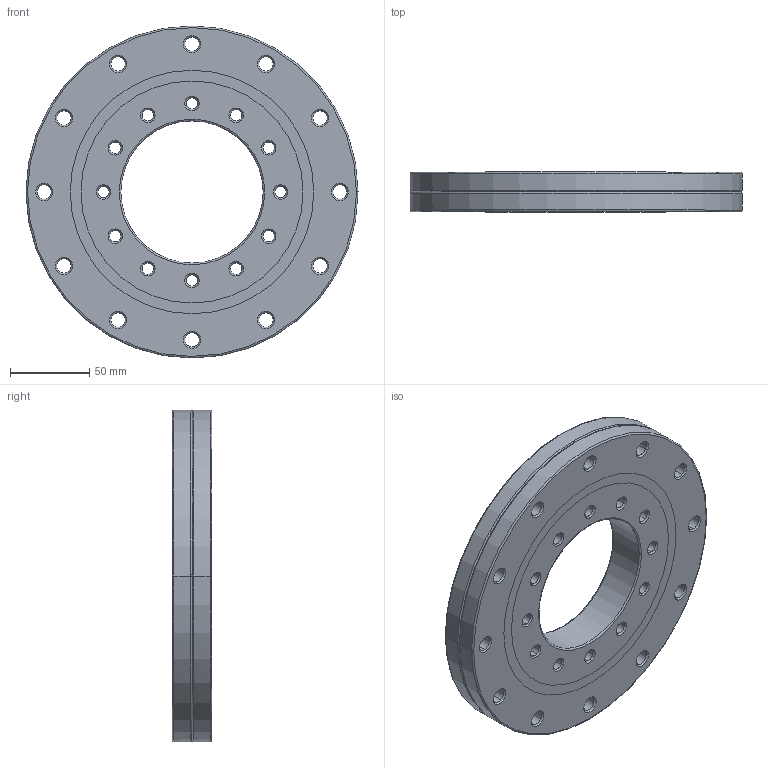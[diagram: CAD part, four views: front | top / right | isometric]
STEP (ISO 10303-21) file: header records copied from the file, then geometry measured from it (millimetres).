
FILE_DESCRIPTION(('no description'),'unknown implementation level');
FILE_NAME('CRBD09025A_45.stp',' ',('HIWIN GmbH'),('CADClick - KiM GmbH - www.kimweb.de'),'unknown preprocess','ACIS','unknown authorization');
FILE_SCHEMA(('automotive_design'));
Length unit declared in the file: millimetre
Products named in the file (41): CRBD09025A_1; CRBD09025A_2; CRBD09025A_3; CRBD09025A_4; CRBD09025A_5; CRBD09025A_6; CRBD09025A_7; CRBD09025A_8; CRBD09025A_9; CRBD09025A_10; CRBD09025A_11; CRBD09025A_12; CRBD09025A_13; CRBD09025A_14; CRBD09025A_15; CRBD09025A_16; CRBD09025A_17; CRBD09025A_18; CRBD09025A_19; CRBD09025A_20; CRBD09025A_21; CRBD09025A_22; CRBD09025A_23; CRBD09025A_24; CRBD09025A_25; CRBD09025A_26; CRBD09025A_27; CRBD09025A_28; CRBD09025A_29; CRBD09025A_30; CRBD09025A_31; CRBD09025A_32; CRBD09025A_33; CRBD09025A_34; CRBD09025A_35; CRBD09025A_36; CRBD09025A_37; CRBD09025A_38; CRBD09025A_39; CRBD09025A_40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
Bounding box: 210 x 25 x 210 mm (x, y, z)
Volume: 593819.5 mm3; surface area: 159685 mm2
Topology: 5 solids, 41 shells, 462 faces, 1200 edges, 796 vertices
Faces by surface type: cone 264, cylinder 140, plane 34, torus 24
Entity records: 27877 total; most frequent: DIRECTION 2978, CARTESIAN_POINT 2499, ORIENTED_EDGE 2256, STYLED_ITEM 2211, PRESENTATION_STYLE_ASSIGNMENT 2211, COLOUR_RGB 2211, AXIS2_PLACEMENT_3D 1275, EDGE_CURVE 1200
